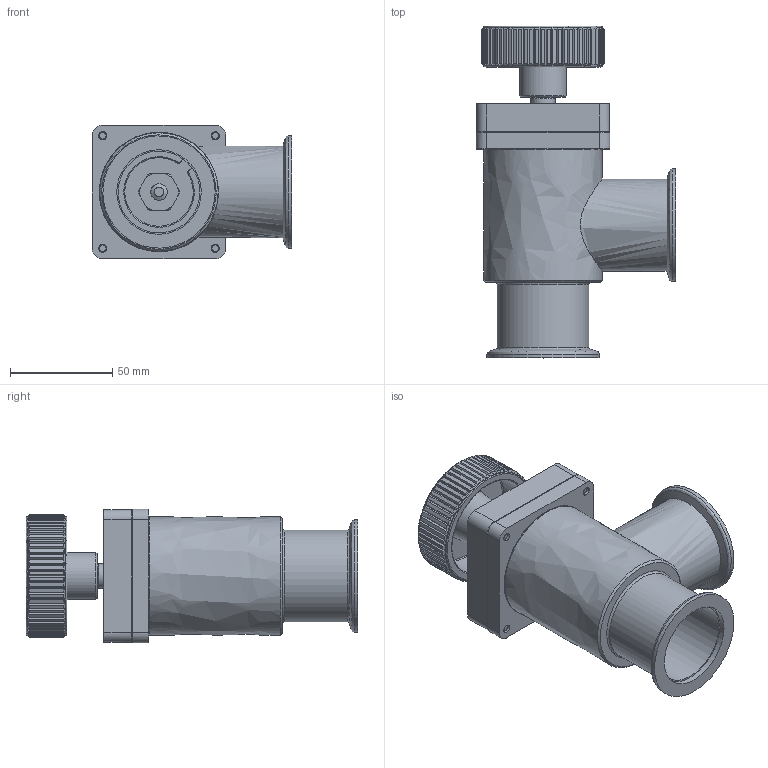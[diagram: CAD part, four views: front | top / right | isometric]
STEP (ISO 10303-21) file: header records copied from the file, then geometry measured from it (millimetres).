
FILE_DESCRIPTION((''),'2;1');
FILE_NAME('C:\TEMP\IDEAS\314229.stp','2006-09-19T15:51:30',('User'),( 'SDRC'),'I-DEAS Master Series 9','UNIX','Yes');
FILE_SCHEMA(('CONFIG_CONTROL_DESIGN'));
Length unit declared in the file: millimetre
Assembly tree (12 placements, depth 0):
Bounding box: 97.7 x 162.3 x 65.4 mm (x, y, z)
Volume: 161479.5 mm3; surface area: 96608.2 mm2
Topology: 19 solids, 19 shells, 642 faces, 1418 edges, 857 vertices
Faces by surface type: bspline 642
Entity records: 20095 total; most frequent: CARTESIAN_POINT 11176, ORIENTED_EDGE 2586, EDGE_CURVE 1293, VERTEX_POINT 755, EDGE_LOOP 642, FACE_OUTER_BOUND 585, ADVANCED_FACE 585, QUASI_UNIFORM_CURVE 540
